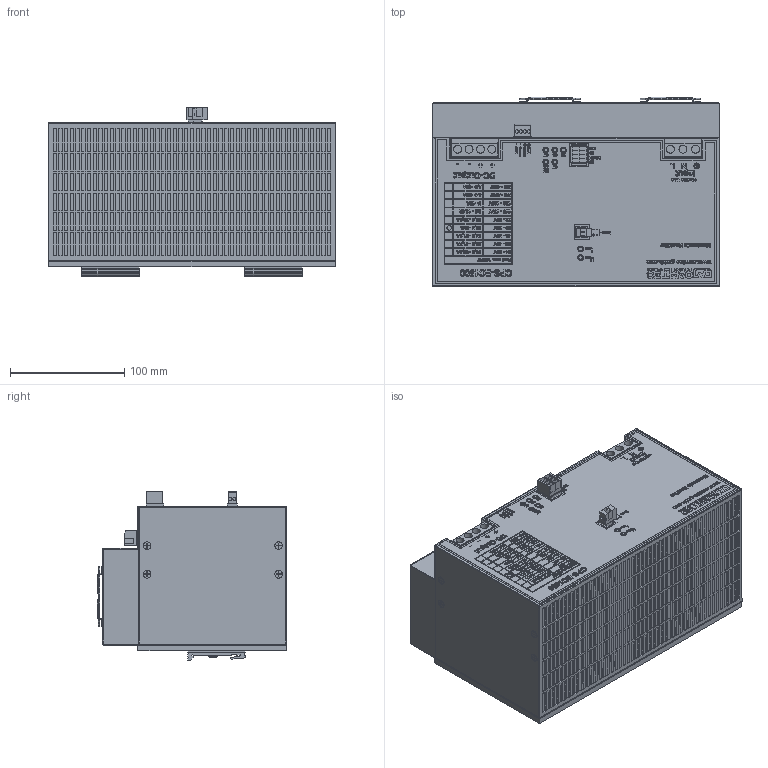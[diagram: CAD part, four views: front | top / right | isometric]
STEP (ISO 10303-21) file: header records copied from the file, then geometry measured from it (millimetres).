
FILE_DESCRIPTION( /* description */ (''), /* implementation_level */ '2;1');
FILE_NAME( /* name */ 'D:\Alle CAD Daten\CAMTEC 2017\Gehäuse HSE_ HSEUreg und HSEUIre g\Gehäuse CPS-EC1500_060\Baugruppe CPS-EC1500_060\CPS-EC1500_06 0.stp', /* time_stamp */ '2017-04-05T14:06:55+02:00', /* author */ ('RBZ'), /* organization */ (''), /* preprocessor_version */ 'ST-DEVELOPER v16.5', /* originating_system */ 'Autodesk Inventor 2017', /* authorisation */ '');
FILE_SCHEMA (('CONFIG_CONTROL_DESIGN'));
Products named in the file (3): CPS-EC480_048; CPS-EC1500_060; Aufkleber CPS-EC1500_060
Assembly tree (2 placements, depth 2):
  CPS-EC480_048
    CPS-EC1500_060
    Aufkleber CPS-EC1500_060
Bounding box: 250.2 x 165.5 x 147.9 mm (x, y, z)
Volume: 3688199.8 mm3; surface area: 552117.4 mm2
Topology: 381 solids, 383 shells, 7329 faces, 19525 edges, 12965 vertices
Faces by surface type: plane 5223, bspline 1827, cylinder 227, torus 52
Full cylindrical faces by diameter (mm): 1 x20, 2.9 x6, 3.2 x7, 4 x4, 5 x16, 6 x4, 6.7 x12, 7 x7, 8 x4, 9 x5
Entity records: 240368 total; most frequent: CARTESIAN_POINT 64656, ORIENTED_EDGE 38796, DIRECTION 27299, EDGE_CURVE 19382, LINE 15123, VECTOR 15123, VERTEX_POINT 12945, EDGE_LOOP 8771
